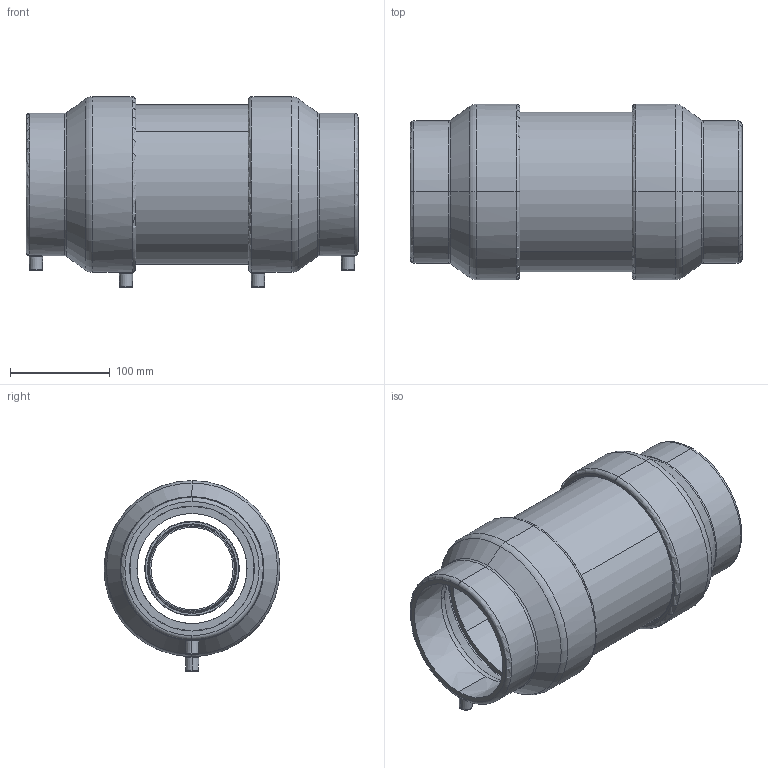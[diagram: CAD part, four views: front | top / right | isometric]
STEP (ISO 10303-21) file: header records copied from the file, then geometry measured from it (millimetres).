
FILE_DESCRIPTION (( 'STEP AP203' ), '1' );
FILE_NAME ('KP_2-160-125SC.step', '2011-08-08T12:06:08', ( '' ), ( '' ), 'SwSTEP 2.0', 'SolidWorks 2011', '' );
FILE_SCHEMA (( 'CONFIG_CONTROL_DESIGN' ));
Length unit declared in the file: millimetre
Products named in the file (1): KP_2-160-125SC
Bounding box: 333.53 x 176.6 x 191.6 mm (x, y, z)
Volume: 2037031.3 mm3; surface area: 599855.7 mm2
Topology: 5 solids, 19 shells, 410 faces, 882 edges, 530 vertices
Faces by surface type: cylinder 138, cone 92, torus 80, plane 70, bspline 26, sphere 4
Entity records: 15437 total; most frequent: CARTESIAN_POINT 6329, DIRECTION 2070, ORIENTED_EDGE 1756, AXIS2_PLACEMENT_3D 915, EDGE_CURVE 878, VERTEX_POINT 530, CIRCLE 530, EDGE_LOOP 464
